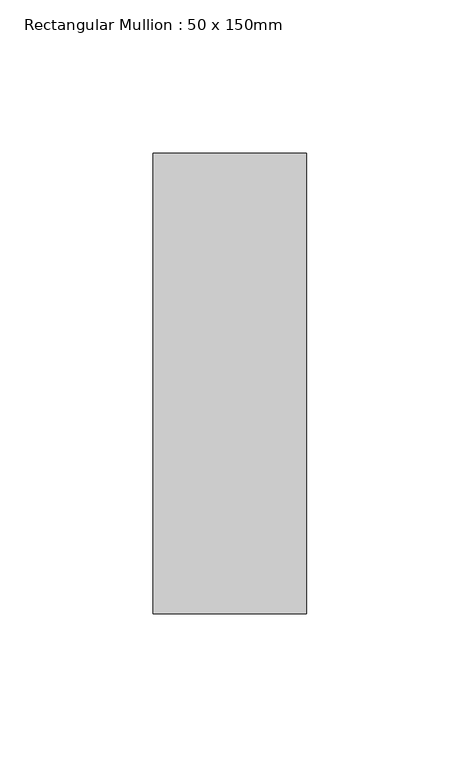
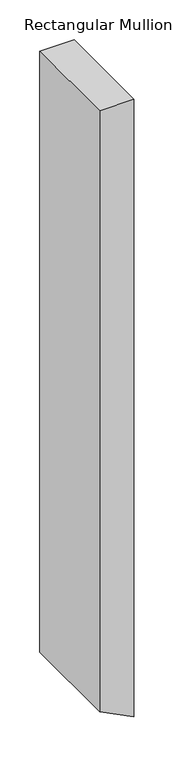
"""IFC4 building model written with IfcOpenShell, lengths in millimetres: member geometry, Rectangular Mullion : 50 x 150mm."""

from ifc_helpers import new_model, si_unit, frame, origin, place, context, project, spatial, polyline, outline, extrude, source, transform, mapped, element, save


def rectangular_mullion_50_x_150mm_2bcf8449(model_context):
    return source(origin(), model_context, "Body", "SweptSolid", [
        extrude(outline(polyline([(0.0, 0.0), (0.0, -50.0), (-921.6288585, -50.0), (-947.105131, 0.0), (0.0, 0.0)])), frame((0.0, -75.0, 0.0), z_axis=(0.0, 1.0, 0.0), x_axis=(0.0, 0.0, 1.0)), (0.0, 0.0, 1.0), 150.0),
    ])


if __name__ == "__main__":
    model = new_model("IFC4")
    model_context = context("Model", 3, world=origin())
    ifc_project = project(units=[si_unit("LENGTHUNIT", "METRE", prefix="MILLI")], contexts=[model_context])
    site = spatial("IfcSite", under=ifc_project)
    building = spatial("IfcBuilding", under=site)
    placement = place(None, origin())
    rectangular_mullion_50_x_150mm_shape = rectangular_mullion_50_x_150mm_2bcf8449(model_context)
    element("IfcMember", 1, ObjectType="Rectangular Mullion : 50 x 150mm", at=placement, inside=building, context=model_context, shape_type="MappedRepresentation", body=[
        mapped(rectangular_mullion_50_x_150mm_shape, transform((0.0, 0.0, 0.0), x_axis=(1.0, 0.0, 0.0), y_axis=(0.0, 1.0, 0.0), z_axis=(0.0, 0.0, 1.0))),
    ])
    save(model, "model.ifc")
